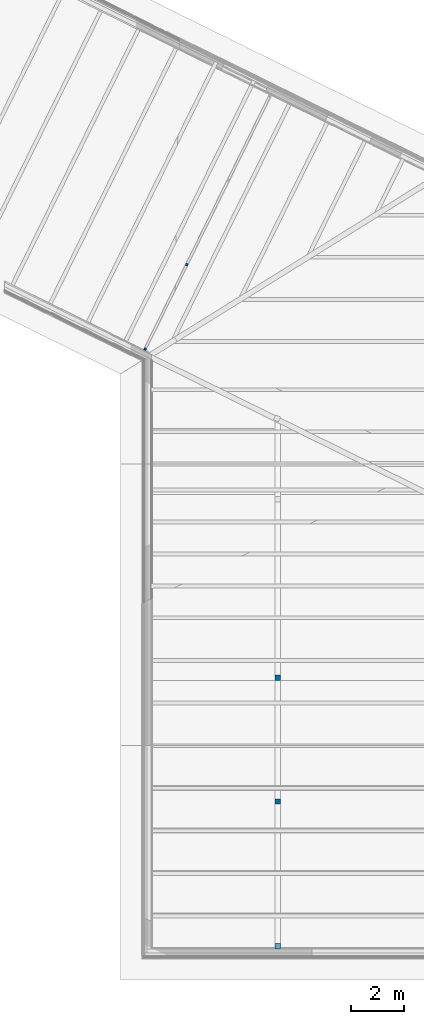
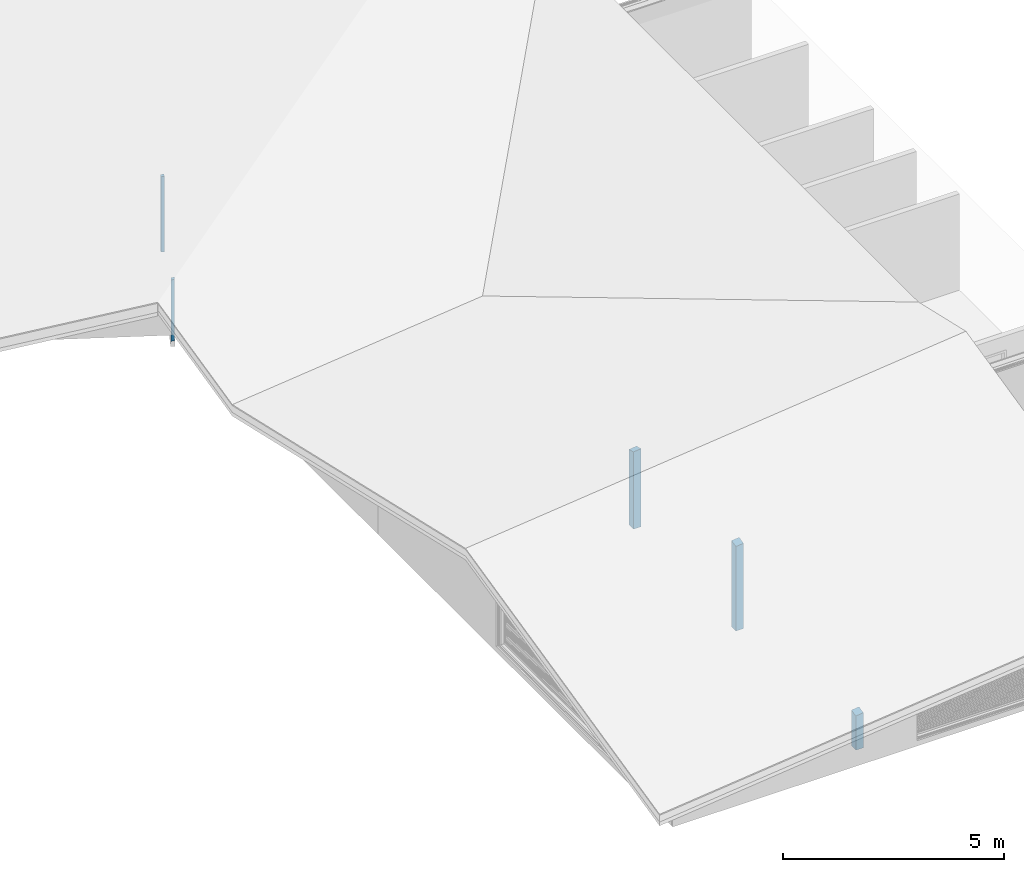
# One storey, part 1 of 14: 5 columns, 1 element without a shape of its own.
"""IFC4 building model written with IfcOpenShell, lengths in metres."""

from ifc_helpers import new_model, entity, si_unit, converted_unit, derived_unit, frame, frame_2d, origin, origin_with_axes, place, context, subcontext, project, spatial, rectangle, extrude, clip, halfspace, material, element, aggregate, save


model = new_model("IFC4")

# Units and contexts
model_context = context("Model", 3, precision=1e-05, world=origin())
body_context = subcontext(model_context, "Body", "Model", "MODEL_VIEW")
ifc_project = project(units=[si_unit("LENGTHUNIT", "METRE"), si_unit("AREAUNIT", "SQUARE_METRE"), si_unit("VOLUMEUNIT", "CUBIC_METRE"), si_unit("MASSUNIT", "GRAM", prefix="KILO"), converted_unit("PLANEANGLEUNIT", "DEGREE", entity("IfcPlaneAngleMeasure", 0.0174532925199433), si_unit("PLANEANGLEUNIT", "RADIAN"), dimensions=[0, 0, 0, 0, 0, 0, 0]), derived_unit("THERMALTRANSMITTANCEUNIT", [(si_unit("POWERUNIT", "WATT"), 1), (si_unit("THERMODYNAMICTEMPERATUREUNIT", "KELVIN"), -1), (si_unit("LENGTHUNIT", "METRE"), -2)]), derived_unit("VOLUMETRICFLOWRATEUNIT", [(si_unit("LENGTHUNIT", "METRE"), 3), (converted_unit("TIMEUNIT", "hour", entity("IfcTimeMeasure", 3600.0), si_unit("TIMEUNIT", "SECOND"), dimensions=[0, 0, 1, 0, 0, 0, 0]), -1), (si_unit("LENGTHUNIT", "METRE"), -1)])], contexts=[model_context])

# Site, building, storey
site_placement = place(None, origin())
site = spatial("IfcSite", under=ifc_project, at=site_placement, Name="Psychiatrie Neubau Wunstorf", CompositionType="ELEMENT")
building_placement = place(site_placement, origin())
building = spatial("IfcBuilding", under=site, at=building_placement, Name="Neubau H1 Sozialzentrum", CompositionType="ELEMENT")
storey_placement = place(building_placement, frame((0.0, 0.0, 4.45)))
storey = spatial("IfcBuildingStorey", under=building, at=storey_placement, Name="H1 Ebene +1", CompositionType="ELEMENT", Elevation=4.45)

# Assembly, columns
assembly_placement = place(storey_placement, frame((0.0, 0.0, -4.45)))
assembly = element("IfcElementAssembly", 1, at=assembly_placement, inside=storey, Name="Fachwerkträger", PredefinedType="NOTDEFINED")
ifc_material_1 = material(Name="ST-H")
column_1_placement = place(assembly_placement, frame((-16.1537560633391, 26.8041173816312, 3.85)))
column_1 = element("IfcColumn", 2, at=column_1_placement, material=ifc_material_1, PredefinedType="COLUMN", context=body_context, shape_type="Clipping", body=[
    clip(extrude(rectangle(XDim=0.0800000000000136, YDim=0.080000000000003, at=frame_2d((0.0181873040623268, -0.0535651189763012), x_axis=(-0.442222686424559, -0.896905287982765))), origin_with_axes(), (0.0, 0.0, 1.0), 1.72047106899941), halfspace(frame((0.0181873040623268, -0.0535651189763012, 1.7069216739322), z_axis=(0.246520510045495, -0.00405709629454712, -0.969129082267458), x_axis=(-0.439631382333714, -0.891649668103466, -0.108097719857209)), True)),
])
ifc_material_2 = material(Name="ST-H")
column_2_placement = place(assembly_placement, frame((-14.5894888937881, 29.9767259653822, 3.85)))
column_2 = element("IfcColumn", 3, at=column_2_placement, material=ifc_material_2, PredefinedType="COLUMN", context=body_context, shape_type="Clipping", body=[
    clip(extrude(rectangle(XDim=0.0800000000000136, YDim=0.080000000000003, at=frame_2d((0.018187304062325, -0.0535651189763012), x_axis=(-0.442222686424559, -0.896905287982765))), origin_with_axes(), (0.0, 0.0, 1.0), 2.10509719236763), halfspace(frame((0.018187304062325, -0.0535651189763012, 2.09154779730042), z_axis=(0.246520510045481, -0.00405709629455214, -0.969129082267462), x_axis=(-0.439631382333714, -0.891649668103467, -0.108097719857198)), True)),
])
aggregate(assembly, [column_1, column_2])

# Columns
ifc_material_3 = material(Name="ST-Stahl")
column_3_placement = place(storey_placement, frame((-11.0545268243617, 4.42632131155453, 0.0)))
element("IfcColumn", 4, at=column_3_placement, inside=storey, material=ifc_material_3, PredefinedType="COLUMN", context=body_context, shape_type="Clipping", body=[
    clip(extrude(rectangle(XDim=0.200000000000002, YDim=0.2, at=frame_2d((-0.100000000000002, -0.100000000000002), x_axis=(-1.0, -1.81898940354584e-14))), origin_with_axes(), (0.0, 0.0, 1.0), 1.01450763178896), halfspace(frame((-0.1, -0.100000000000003, 0.980638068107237), z_axis=(0.105340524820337, 0.22290058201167, -0.969132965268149), x_axis=(0.994144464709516, 0.0, 0.108059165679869)), True)),
])
ifc_material_4 = material(Name="ST-Stahl")
column_4_placement = place(storey_placement, frame((-11.0545268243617, 14.5122462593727, 0.0)))
element("IfcColumn", 5, at=column_4_placement, inside=storey, material=ifc_material_4, PredefinedType="COLUMN", context=body_context, shape_type="Clipping", body=[
    clip(extrude(rectangle(XDim=0.200000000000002, YDim=0.2, at=frame_2d((-0.100000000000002, -0.100000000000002), x_axis=(-1.0, -1.81898940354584e-14))), origin_with_axes(), (0.0, 0.0, 1.0), 2.16038491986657), halfspace(frame((-0.1, -0.100000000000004, 2.12651535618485), z_axis=(0.105340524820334, -0.222900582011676, -0.969132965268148), x_axis=(0.994144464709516, 0.0, 0.108059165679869)), True)),
])
ifc_material_5 = material(Name="ST-Stahl")
column_5_placement = place(storey_placement, frame((-11.0545268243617, 9.86239262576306, 0.0)))
element("IfcColumn", 6, at=column_5_placement, inside=storey, material=ifc_material_5, PredefinedType="COLUMN", context=body_context, shape_type="Clipping", body=[
    clip(extrude(rectangle(XDim=0.200000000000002, YDim=0.2, at=frame_2d((-0.100000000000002, -0.100000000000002), x_axis=(-1.0, -1.81898940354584e-14))), origin_with_axes(), (0.0, 0.0, 1.0), 2.40876562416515), halfspace(frame((-0.100000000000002, -0.100000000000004, 2.37489606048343), z_axis=(0.105340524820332, 0.222900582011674, -0.969132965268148), x_axis=(-0.994144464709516, -1.80833824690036e-14, -0.108059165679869)), True)),
])

save(model, "model.ifc")
